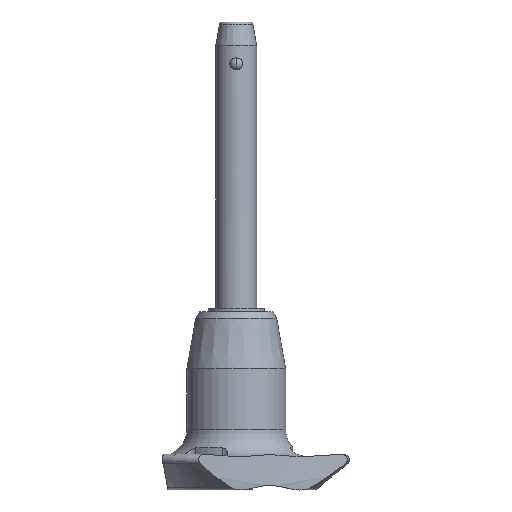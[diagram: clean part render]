
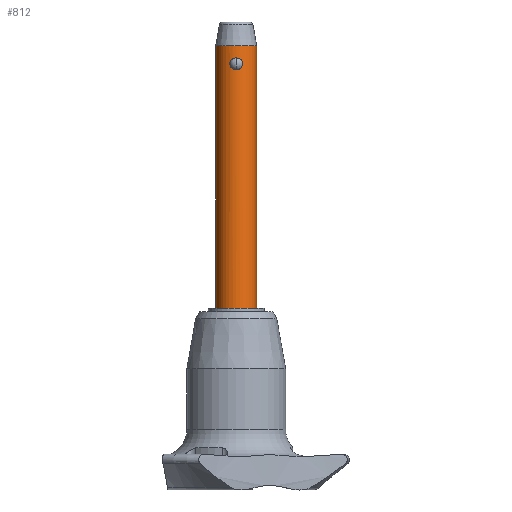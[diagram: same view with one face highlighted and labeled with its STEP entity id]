
A CAD part, front view. The second image highlights one B-rep face of the part: STEP entity #812.
In plain terms, the highlighted cylindrical face has radius 3 mm (diameter 6 mm), a partial arc.
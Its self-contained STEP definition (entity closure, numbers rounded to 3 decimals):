
#16 = VERTEX_POINT ( 'NONE', #1276 ) ;
#22 = EDGE_CURVE ( 'NONE', #836, #894, #1084, .T. ) ;
#84 = CARTESIAN_POINT ( 'NONE',  ( 0.812, -2.888, 1.317 ) ) ;
#93 = CARTESIAN_POINT ( 'NONE',  ( 0., 0., -35. ) ) ;
#159 = CARTESIAN_POINT ( 'NONE',  ( 0.12, -3., 1.732 ) ) ;
#274 = EDGE_CURVE ( 'NONE', #16, #388, #2516, .T. ) ;
#286 = CARTESIAN_POINT ( 'NONE',  ( 0.937, -2.85, 0.985 ) ) ;
#312 = VERTEX_POINT ( 'NONE', #2436 ) ;
#328 = EDGE_CURVE ( 'NONE', #312, #894, #2040, .T. ) ;
#366 = CARTESIAN_POINT ( 'NONE',  ( -0.46, -2.967, 0.101 ) ) ;
#371 = CARTESIAN_POINT ( 'NONE',  ( 0.238, -2.993, 1.712 ) ) ;
#376 = CARTESIAN_POINT ( 'NONE',  ( -0.937, -2.85, 0.749 ) ) ;
#388 = VERTEX_POINT ( 'NONE', #2117 ) ;
#412 = B_SPLINE_CURVE_WITH_KNOTS ( 'NONE', 3,
 ( #1330, #1963, #717, #2371, #761, #1156, #2021, #1550, #2166, #286, #1125, #84, #507, #1218, #990, #371, #159, #1208 ),
 .UNSPECIFIED., .F., .F.,
 ( 4, 2, 2, 2, 2, 2, 2, 2, 4 ),
 ( 0.003, 0.003, 0.004, 0.004, 0.004, 0.005, 0.005, 0.005, 0.006 ),
 .UNSPECIFIED. ) ;
#429 = CIRCLE ( 'NONE', #1087, 3. ) ;
#457 = VERTEX_POINT ( 'NONE', #1951 ) ;
#503 = DIRECTION ( 'NONE',  ( 0., 0., 1. ) ) ;
#507 = CARTESIAN_POINT ( 'NONE',  ( 0.74, -2.909, 1.414 ) ) ;
#538 = CARTESIAN_POINT ( 'NONE',  ( -3., 0., 3.5 ) ) ;
#545 = ORIENTED_EDGE ( 'NONE', *, *, #1453, .T. ) ;
#554 = EDGE_CURVE ( 'NONE', #457, #312, #429, .T. ) ;
#595 = ORIENTED_EDGE ( 'NONE', *, *, #2016, .F. ) ;
#645 = CARTESIAN_POINT ( 'NONE',  ( 0., 0., 3.5 ) ) ;
#692 = CARTESIAN_POINT ( 'NONE',  ( 0., 0., -35. ) ) ;
#717 = CARTESIAN_POINT ( 'NONE',  ( 0.238, -2.993, 0.021 ) ) ;
#761 = CARTESIAN_POINT ( 'NONE',  ( 0.563, -2.948, 0.162 ) ) ;
#767 = CARTESIAN_POINT ( 'NONE',  ( -0.74, -2.909, 0.318 ) ) ;
#805 = CARTESIAN_POINT ( 'NONE',  ( -0.811, -2.889, 1.319 ) ) ;
#812 = ADVANCED_FACE ( 'NONE', ( #2381, #1546 ), #1767, .T. ) ;
#814 = DIRECTION ( 'NONE',  ( 0., 0., -1. ) ) ;
#836 = VERTEX_POINT ( 'NONE', #1975 ) ;
#894 = VERTEX_POINT ( 'NONE', #538 ) ;
#990 = CARTESIAN_POINT ( 'NONE',  ( 0.461, -2.966, 1.63 ) ) ;
#1020 = CARTESIAN_POINT ( 'NONE',  ( -3., 0., -35. ) ) ;
#1038 = DIRECTION ( 'NONE',  ( 0., 0., 1. ) ) ;
#1084 = CIRCLE ( 'NONE', #2701, 3. ) ;
#1087 = AXIS2_PLACEMENT_3D ( 'NONE', #692, #2365, #1972 ) ;
#1121 = DIRECTION ( 'NONE',  ( 1., 0., 0. ) ) ;
#1125 = CARTESIAN_POINT ( 'NONE',  ( 0.911, -2.859, 1.103 ) ) ;
#1156 = CARTESIAN_POINT ( 'NONE',  ( 0.738, -2.909, 0.317 ) ) ;
#1193 = CARTESIAN_POINT ( 'NONE',  ( -0.461, -2.967, 1.63 ) ) ;
#1208 = CARTESIAN_POINT ( 'NONE',  ( 0., -3., 1.732 ) ) ;
#1218 = CARTESIAN_POINT ( 'NONE',  ( 0.564, -2.948, 1.57 ) ) ;
#1225 = DIRECTION ( 'NONE',  ( 1., 0., 0. ) ) ;
#1227 = CARTESIAN_POINT ( 'NONE',  ( -0.937, -2.85, 0.986 ) ) ;
#1276 = CARTESIAN_POINT ( 'NONE',  ( 0., -3., 1.732 ) ) ;
#1330 = CARTESIAN_POINT ( 'NONE',  ( 0., -3., 0. ) ) ;
#1379 = CARTESIAN_POINT ( 'NONE',  ( -0.118, -3., 0. ) ) ;
#1453 = EDGE_CURVE ( 'NONE', #457, #836, #2085, .T. ) ;
#1546 = FACE_BOUND ( 'NONE', #2558, .T. ) ;
#1550 = CARTESIAN_POINT ( 'NONE',  ( 0.91, -2.859, 0.626 ) ) ;
#1599 = CARTESIAN_POINT ( 'NONE',  ( -0.564, -2.948, 0.162 ) ) ;
#1639 = CARTESIAN_POINT ( 'NONE',  ( -0.91, -2.859, 1.105 ) ) ;
#1748 = AXIS2_PLACEMENT_3D ( 'NONE', #93, #503, #1121 ) ;
#1767 = CYLINDRICAL_SURFACE ( 'NONE', #1748, 3. ) ;
#1805 = DIRECTION ( 'NONE',  ( 0., 0., 1. ) ) ;
#1816 = CARTESIAN_POINT ( 'NONE',  ( -0.238, -2.993, 1.712 ) ) ;
#1826 = ORIENTED_EDGE ( 'NONE', *, *, #274, .F. ) ;
#1853 = ORIENTED_EDGE ( 'NONE', *, *, #328, .F. ) ;
#1854 = CARTESIAN_POINT ( 'NONE',  ( -0.12, -3., 1.732 ) ) ;
#1895 = EDGE_LOOP ( 'NONE', ( #1853, #2624, #545, #1973 ) ) ;
#1951 = CARTESIAN_POINT ( 'NONE',  ( 3., 0., -35. ) ) ;
#1963 = CARTESIAN_POINT ( 'NONE',  ( 0.118, -3., 0. ) ) ;
#1972 = DIRECTION ( 'NONE',  ( 1., 0., 0. ) ) ;
#1973 = ORIENTED_EDGE ( 'NONE', *, *, #22, .T. ) ;
#1975 = CARTESIAN_POINT ( 'NONE',  ( 3., 0., 3.5 ) ) ;
#2016 = EDGE_CURVE ( 'NONE', #388, #16, #412, .T. ) ;
#2021 = CARTESIAN_POINT ( 'NONE',  ( 0.811, -2.889, 0.412 ) ) ;
#2028 = CARTESIAN_POINT ( 'NONE',  ( 0., -3., 0. ) ) ;
#2040 = LINE ( 'NONE', #1020, #2307 ) ;
#2066 = CARTESIAN_POINT ( 'NONE',  ( -0.238, -2.993, 0.021 ) ) ;
#2085 = LINE ( 'NONE', #2100, #2271 ) ;
#2100 = CARTESIAN_POINT ( 'NONE',  ( 3., 0., -35. ) ) ;
#2117 = CARTESIAN_POINT ( 'NONE',  ( 0., -3., 0. ) ) ;
#2166 = CARTESIAN_POINT ( 'NONE',  ( 0.937, -2.85, 0.744 ) ) ;
#2254 = CARTESIAN_POINT ( 'NONE',  ( -0.563, -2.948, 1.57 ) ) ;
#2271 = VECTOR ( 'NONE', #1038, 1000. ) ;
#2307 = VECTOR ( 'NONE', #1805, 1000. ) ;
#2365 = DIRECTION ( 'NONE',  ( 0., 0., -1. ) ) ;
#2371 = CARTESIAN_POINT ( 'NONE',  ( 0.459, -2.967, 0.101 ) ) ;
#2381 = FACE_OUTER_BOUND ( 'NONE', #1895, .T. ) ;
#2436 = CARTESIAN_POINT ( 'NONE',  ( -3., 0., -35. ) ) ;
#2516 = B_SPLINE_CURVE_WITH_KNOTS ( 'NONE', 3,
 ( #2676, #1854, #1816, #1193, #2254, #2650, #805, #1639, #1227, #376, #2638, #2664, #767, #1599, #366, #2066, #1379, #2028 ),
 .UNSPECIFIED., .F., .F.,
 ( 4, 2, 2, 2, 2, 2, 2, 2, 4 ),
 ( 0., 0., 0.001, 0.001, 0.001, 0.002, 0.002, 0.002, 0.003 ),
 .UNSPECIFIED. ) ;
#2558 = EDGE_LOOP ( 'NONE', ( #1826, #595 ) ) ;
#2624 = ORIENTED_EDGE ( 'NONE', *, *, #554, .F. ) ;
#2638 = CARTESIAN_POINT ( 'NONE',  ( -0.911, -2.859, 0.63 ) ) ;
#2650 = CARTESIAN_POINT ( 'NONE',  ( -0.739, -2.909, 1.414 ) ) ;
#2664 = CARTESIAN_POINT ( 'NONE',  ( -0.812, -2.889, 0.414 ) ) ;
#2676 = CARTESIAN_POINT ( 'NONE',  ( 0., -3., 1.732 ) ) ;
#2701 = AXIS2_PLACEMENT_3D ( 'NONE', #645, #814, #1225 ) ;
